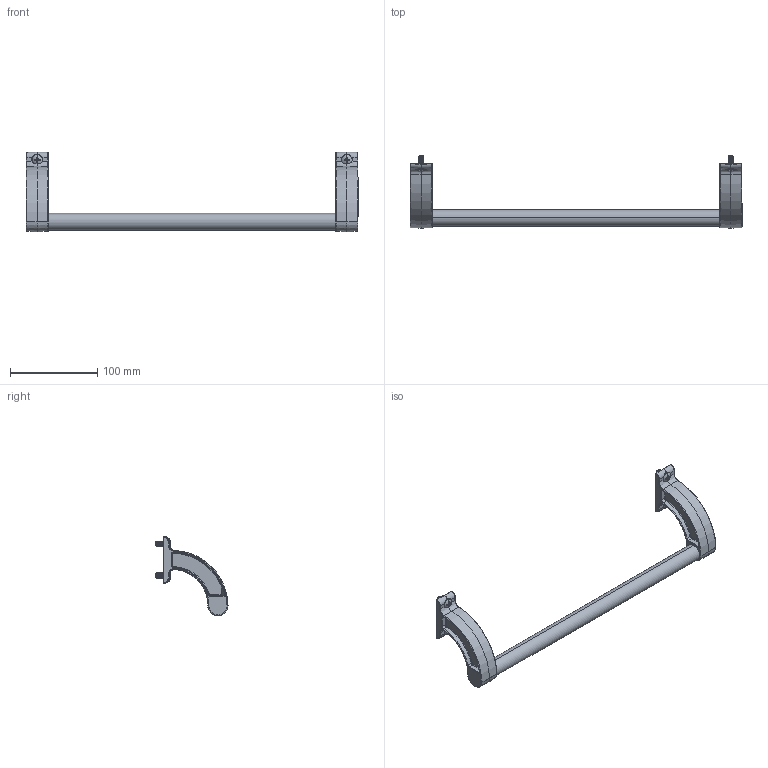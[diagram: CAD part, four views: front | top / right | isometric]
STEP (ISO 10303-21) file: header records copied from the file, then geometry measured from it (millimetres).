
FILE_DESCRIPTION (( 'STEP AP214' ), '1' );
FILE_NAME ('UM-HANDLE-x-xx.STEP', '2023-01-27T20:39:33', ( '' ), ( '' ), 'SwSTEP 2.0', 'SolidWorks 2020', '' );
FILE_SCHEMA (( 'AUTOMOTIVE_DESIGN' ));
Length unit declared in the file: millimetre
Products named in the file (1): UM-HANDLE-x-xx
Bounding box: 381 x 82.73 x 91.47 mm (x, y, z)
Volume: 187400 mm3; surface area: 48422.7 mm2
Topology: 1 solids, 1 shells, 618 faces, 1622 edges, 1012 vertices
Faces by surface type: cylinder 254, plane 118, cone 78, torus 76, bspline 72, sphere 20
Entity records: 44523 total; most frequent: CARTESIAN_POINT 24169, ORIENTED_EDGE 3228, DIRECTION 2526, EDGE_CURVE 1614, AXIS2_PLACEMENT_3D 1025, VERTEX_POINT 1012, EDGE_LOOP 632, UNCERTAINTY_MEASURE_WITH_UNIT 621
